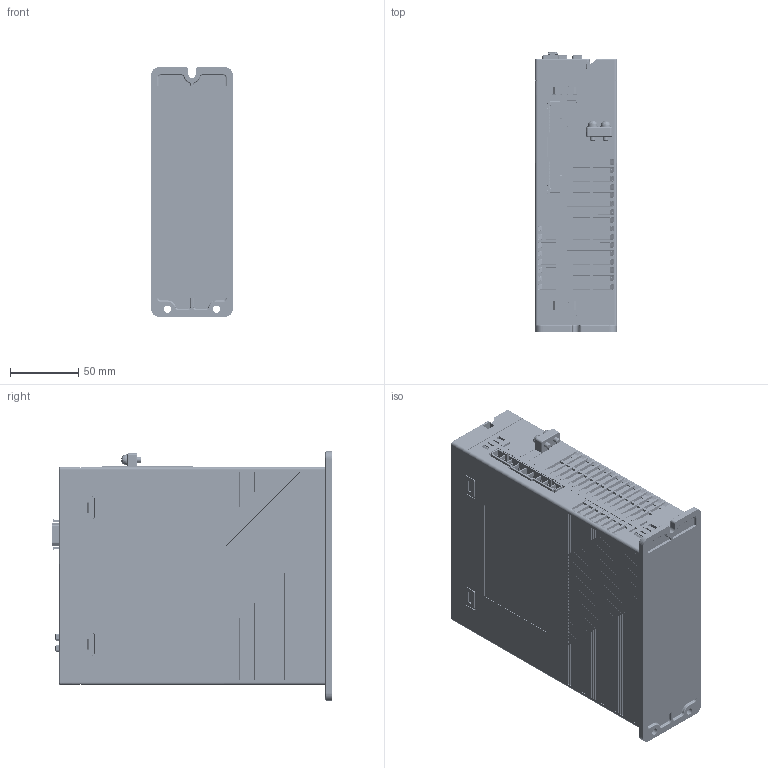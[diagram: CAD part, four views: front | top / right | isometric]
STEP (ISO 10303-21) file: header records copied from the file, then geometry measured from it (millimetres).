
FILE_DESCRIPTION((''),'2;1');
FILE_NAME('BD3-C_ASM','2024-05-13T14:06:53',('qiaolun'),(''),'CREO PARAMETRIC BY PTC INC, 2021063','CREO PARAMETRIC BY PTC INC, 2021063','');
FILE_SCHEMA(('CONFIG_CONTROL_DESIGN'));
Products named in the file (31): 2; 3; 4; 6; 7; 8; M4X12_1_1; 14; 13_ASM; 17; 18; 19; 20; 21; 22; 23; 16_ASM; 15_ASM; 27; 26_ASM; 29; 28_ASM; 30; 32; 12_ASM; 11_ASM; 9EDGRC-7_5-09P-1Y-1000A_H_; 10_ASM; 33; 1_ASM; BD3-C_ASM
Assembly tree (47 placements, depth 8):
  BD3-C_ASM
    1_ASM
      2
      3
      4
      6
      7
      8
      M4X12_1_1  x2
      10_ASM
        11_ASM
          12_ASM
            13_ASM
              14
            15_ASM
              16_ASM
                17
                18
                19  x5
                20  x5
                21  x5
                22  x5
                23
            26_ASM
              27
            28_ASM
              29
            30
            32
        9EDGRC-7_5-09P-1Y-1000A_H_
      33
Bounding box: 60 x 205.24 x 183 mm (x, y, z)
Surface area: 414022.5 mm2
Topology: 38 solids, 75 shells, 13566 faces, 38306 edges, 24793 vertices
Faces by surface type: plane 9652, cylinder 3106, cone 271, bspline 204, torus 165, sphere 112, extrusion 52, revolution 4
Entity records: 408947 total; most frequent: CARTESIAN_POINT 90832, ORIENTED_EDGE 68836, DIRECTION 62153, EDGE_CURVE 34422, VECTOR 27507, LINE 27455, VERTEX_POINT 22314, AXIS2_PLACEMENT_3D 17321
